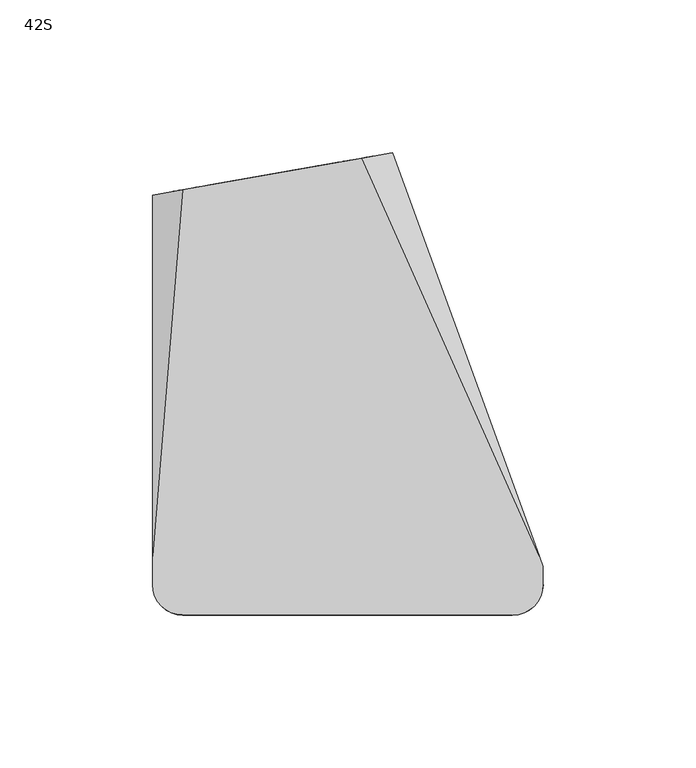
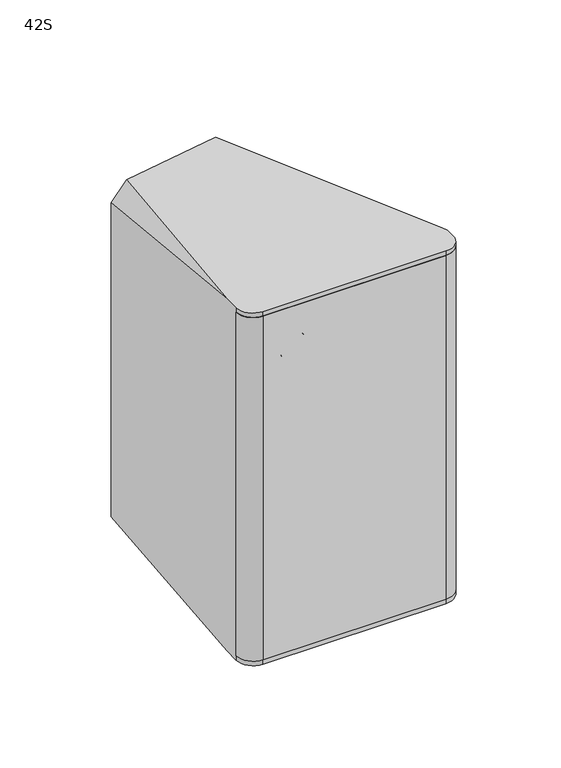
"""IFC4 building model written with IfcOpenShell, lengths in millimetres: proxy geometry, d&b xS-Series 42S Point Source : 42S."""

from ifc_helpers import new_model, si_unit, point, frame, frame_2d, origin, place, context, project, spatial, polyline, circle_curve, ellipse_curve, trimmed, segment, composite_curve, outline, extrude, source, transform, mapped, element, save
from ifc_brep_helpers import plane_surface, cylinder_surface, revolved_surface, advanced_brep


def proxy_42s_0bac77b2(model_context):
    return source(origin(), model_context, "Body", "SolidModel", [
        extrude(outline(composite_curve([segment(trimmed(circle_curve(frame_2d((54.0, -65.9650952)), 8.0), [point((54.0, -73.9650952))], [point((62.0, -65.9650952))], True, "CARTESIAN"), True, "CONTINUOUS"), segment(polyline([(62.0, -65.9650952), (64.0349048, -65.9650952)]), True, "CONTINUOUS"), segment(trimmed(circle_curve(frame_2d((54.0, -65.9650952)), 10.0349048), [point((64.0349048, -65.9650952))], [point((54.0, -76.0))], False, "CARTESIAN"), True, "CONTINUOUS"), segment(polyline([(54.0, -76.0), (-54.0, -76.0)]), True, "CONTINUOUS"), segment(trimmed(circle_curve(frame_2d((-54.0, -66.0)), 10.0), [point((-54.0, -76.0))], [point((-64.0, -66.0))], False, "CARTESIAN"), True, "CONTINUOUS"), segment(polyline([(-64.0, -66.0), (-62.0435242, -66.0)]), True, "CONTINUOUS"), segment(trimmed(circle_curve(frame_2d((-54.078429, -66.0)), 7.9650952), [point((-62.0435242, -66.0))], [point((-54.078429, -73.9650952))], True, "CARTESIAN"), True, "CONTINUOUS"), segment(polyline([(-54.078429, -73.9650952), (54.0, -73.9650952)]), True, "CONTINUOUS")], self_intersect=False)), frame((0.0, 0.0, -107.0), z_axis=(0.0, 0.0, 1.0), x_axis=(1.0, 0.0, 0.0)), (0.0, 0.0, 1.0), 214.0),
        extrude(outline(polyline([(-9.0, -76.0), (-25.3333333, -76.0), (-25.3333333, -71.0), (-9.0, -71.0), (-9.0, -76.0)])), frame((0.0, 0.0, 73.6666667), z_axis=(0.0, 0.0, 1.0), x_axis=(1.0, 0.0, 0.0)), (0.0, 0.0, 1.0), 16.3333333),
        extrude(outline(polyline([(-9.0, -76.0), (-25.3333333, -76.0), (-25.3333333, -71.0), (-9.0, -71.0), (-9.0, -76.0)])), frame((0.0, 0.0, 55.0), z_axis=(0.0, 0.0, 1.0), x_axis=(1.0, 0.0, 0.0)), (0.0, 0.0, 1.0), 16.3333333),
        extrude(outline(polyline([(-27.6666667, -76.0), (-44.0, -76.0), (-44.0, -71.0), (-27.6666667, -71.0), (-27.6666667, -76.0)])), frame((0.0, 0.0, 55.0), z_axis=(0.0, 0.0, 1.0), x_axis=(1.0, 0.0, 0.0)), (0.0, 0.0, 1.0), 16.3333333),
        extrude(outline(composite_curve([segment(trimmed(circle_curve(frame_2d((81.8333333, -35.8333333)), 8.1666667), [point((73.6666667, -35.8333333))], [point((90.0, -35.8333333))], False, "CARTESIAN"), True, "CONTINUOUS"), segment(trimmed(circle_curve(frame_2d((81.8333333, -35.8333333)), 8.1666667), [point((90.0, -35.8333333))], [point((73.6666667, -35.8333333))], False, "CARTESIAN"), True, "CONTINUOUS")], self_intersect=False)), frame((0.0, -76.0, 0.0), z_axis=(0.0, 1.0, 0.0), x_axis=(0.0, 0.0, 1.0)), (0.0, 0.0, 1.0), 5.0),
        advanced_brep(
        [(-64.0, -66.0, 107.0), (-64.0, -66.0, -107.0), (-62.0435242, -66.0, -107.0), (-62.0435242, -66.0, 107.0), (-54.078429, -73.9650952, -107.0), (-54.078429, -73.9650952, 107.0), (54.0, -73.9650952, -107.0), (54.0, -73.9650952, 107.0), (62.0, -65.9650952, -107.0), (62.0, -65.9650952, 107.0), (64.0, -65.9650952, -107.0), (64.0, -65.9650952, 107.0), (64.0, -65.9650952, -109.8273531), (64.0, -60.0349048, -109.7253263), (64.0, -60.0349048, 109.7253263), (64.0, -65.9650952, 109.8273531), (-64.0, -66.0, 109.8279536), (-64.0, -56.6972655, 109.6679034), (-64.0, 61.6262346, 97.8946622), (-64.0, 61.6262346, -97.8946622), (-64.0, -56.6972655, -109.6679034), (-64.0, -66.0, -109.8279536), (14.6819894, 75.4999923, -96.5142171), (14.6819894, 75.4999923, 96.5142171), (62.7855103, -56.6972655, 109.6679034), (62.7855103, -56.6972655, -109.6679034), (-54.1190905, 63.3685056, 107.602215), (-54.1190905, 63.3685056, -107.602215), (4.5961827, 73.7215924, -107.4240938), (4.5961827, 73.7215924, 107.4240938), (-54.078429, -75.921571, 109.9986507), (54.0, -75.9650952, 109.9993995), (54.0, -75.9650952, -109.9993995), (-54.078429, -75.9650952, -109.9993995), (54.0, -75.9650952, 107.0), (-54.078429, -75.9650952, 107.0), (-45.1738745, 64.9457885, 95.447753), (-57.4839714, 62.7751863, 82.947753), (-57.4839714, 62.7751863, 67.052247), (-45.1738745, 64.9457885, 54.552247), (-4.2201563, 72.167034, 54.552247), (8.0899406, 74.3376362, 67.052247), (8.0899406, 74.3376362, 82.947753), (-4.2201563, 72.167034, 95.447753), (-45.1738745, 64.9457885, -52.1), (-57.4839714, 62.7751863, -64.6), (-57.4839714, 62.7751863, -82.4), (-45.1738745, 64.9457885, -94.9), (-4.2201563, 72.167034, -94.9), (8.0899406, 74.3376362, -82.4), (8.0899406, 74.3376362, -64.6), (-4.2201563, 72.167034, -52.1), (-44.3056336, 60.0217497, 95.447753), (-3.3519154, 67.2429952, 95.447753), (8.9581815, 69.4135974, 82.947753), (8.9581815, 69.4135974, 67.052247), (-3.3519154, 67.2429952, 54.552247), (-44.3056336, 60.0217497, 54.552247), (-56.6157306, 57.8511475, 67.052247), (-56.6157306, 57.8511475, 82.947753), (-44.3056336, 60.0217497, -52.1), (-3.3519154, 67.2429952, -52.1), (8.9581815, 69.4135974, -64.6), (8.9581815, 69.4135974, -82.4), (-3.3519154, 67.2429952, -94.9), (-44.3056336, 60.0217497, -94.9), (-56.6157306, 57.8511475, -82.4), (-56.6157306, 57.8511475, -64.6), (-54.078429, -75.921571, -107.0), (54.0, -75.9650952, -107.0)],
        [
            (0, 1),
            (1, 2),
            (2, 3),
            (3, 0),
            (2, 4, circle_curve(frame((-54.078429, -66.0, -107.0), z_axis=(0.0, 0.0, 1.0), x_axis=(-1.0, 0.0, 0.0)), 7.9650952)),
            (4, 5),
            (5, 3, circle_curve(frame((-54.078429, -66.0, 107.0), z_axis=(0.0, 0.0, -1.0), x_axis=(-1.0, 0.0, 0.0)), 7.9650952)),
            (4, 6),
            (6, 7),
            (7, 5),
            (6, 8, circle_curve(frame((54.0, -65.9650952, -107.0), z_axis=(0.0, 0.0, 1.0), x_axis=(-1.0, 0.0, 0.0)), 8.0)),
            (8, 9),
            (9, 7, circle_curve(frame((54.0, -65.9650952, 107.0), z_axis=(0.0, 0.0, -1.0), x_axis=(-1.0, 0.0, 0.0)), 8.0)),
            (8, 10),
            (10, 11),
            (11, 9),
            (10, 12),
            (12, 13),
            (13, 14),
            (14, 15),
            (15, 11),
            (0, 16),
            (16, 17),
            (17, 18),
            (18, 19),
            (19, 20),
            (20, 21),
            (21, 1),
            (22, 23),
            (23, 24),
            (24, 14),
            (13, 25),
            (25, 22),
            (26, 18),
            (17, 26),
            (19, 27),
            (27, 20),
            (28, 22),
            (25, 28),
            (23, 29),
            (29, 24),
            (29, 26),
            (16, 30, ellipse_curve(frame((-54.078429, -66.0, 109.8279536), z_axis=(0.0, 0.017202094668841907, 0.9998520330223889), x_axis=(0.0, -0.999852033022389, 0.017202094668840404)), 9.9230392, 9.921571)),
            (30, 31),
            (31, 15, ellipse_curve(frame((54.0, -65.9650952, 109.8273531), z_axis=(0.0, 0.017202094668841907, 0.9998520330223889), x_axis=(0.0, -0.999852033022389, 0.017202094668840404)), 10.0014799, 10.0)),
            (12, 32, ellipse_curve(frame((54.0, -65.9650952, -109.8273531), z_axis=(0.0, 0.0172020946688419, -0.9998520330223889), x_axis=(0.0, 0.9998520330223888, 0.01720209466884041)), 10.0014799, 10.0)),
            (32, 33),
            (33, 21, ellipse_curve(frame((-54.078429, -66.0, -109.8279536), z_axis=(0.0, 0.0172020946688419, -0.9998520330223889), x_axis=(0.0, 0.9998520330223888, 0.01720209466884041)), 9.9230392, 9.921571)),
            (27, 28),
            (11, 34, circle_curve(frame((54.0, -65.9650952, 107.0), z_axis=(0.0, 0.0, -1.0), x_axis=(-1.0, 0.0, 0.0)), 10.0)),
            (34, 35),
            (35, 0, circle_curve(frame((-54.078429, -66.0, 107.0), z_axis=(0.0, 0.0, -1.0), x_axis=(-1.0, 0.0, 0.0)), 9.921571)),
            (35, 30),
            (34, 31),
            (36, 37, circle_curve(frame((-45.1738745, 64.9457885, 82.947753), z_axis=(0.17364817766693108, -0.9848077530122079, 0.0), x_axis=(0.9848077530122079, 0.17364817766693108, 0.0)), 12.5)),
            (37, 38),
            (38, 39, circle_curve(frame((-45.1738745, 64.9457885, 67.052247), z_axis=(0.17364817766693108, -0.9848077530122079, 0.0), x_axis=(0.9848077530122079, 0.17364817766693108, 0.0)), 12.5)),
            (39, 40),
            (40, 41, circle_curve(frame((-4.2201563, 72.167034, 67.052247), z_axis=(0.17364817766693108, -0.9848077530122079, 0.0), x_axis=(0.9848077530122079, 0.17364817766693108, 0.0)), 12.5)),
            (41, 42),
            (42, 43, circle_curve(frame((-4.2201563, 72.167034, 82.947753), z_axis=(0.17364817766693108, -0.9848077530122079, 0.0), x_axis=(0.9848077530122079, 0.17364817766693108, 0.0)), 12.5)),
            (43, 36),
            (44, 45, circle_curve(frame((-45.1738745, 64.9457885, -64.6), z_axis=(0.17364817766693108, -0.9848077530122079, 0.0), x_axis=(0.9848077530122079, 0.17364817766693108, 0.0)), 12.5)),
            (45, 46),
            (46, 47, circle_curve(frame((-45.1738745, 64.9457885, -82.4), z_axis=(0.17364817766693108, -0.9848077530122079, 0.0), x_axis=(0.9848077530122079, 0.17364817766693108, 0.0)), 12.5)),
            (47, 48),
            (48, 49, circle_curve(frame((-4.2201563, 72.167034, -82.4), z_axis=(0.17364817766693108, -0.9848077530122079, 0.0), x_axis=(0.9848077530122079, 0.17364817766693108, 0.0)), 12.5)),
            (49, 50),
            (50, 51, circle_curve(frame((-4.2201563, 72.167034, -64.6), z_axis=(0.17364817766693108, -0.9848077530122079, 0.0), x_axis=(0.9848077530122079, 0.17364817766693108, 0.0)), 12.5)),
            (51, 44),
            (52, 53),
            (53, 54, circle_curve(frame((-3.3519154, 67.2429952, 82.947753), z_axis=(-0.17364817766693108, 0.9848077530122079, 0.0), x_axis=(0.9848077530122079, 0.17364817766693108, 0.0)), 12.5)),
            (54, 55),
            (55, 56, circle_curve(frame((-3.3519154, 67.2429952, 67.052247), z_axis=(-0.17364817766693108, 0.9848077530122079, 0.0), x_axis=(0.9848077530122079, 0.17364817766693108, 0.0)), 12.5)),
            (56, 57),
            (57, 58, circle_curve(frame((-44.3056336, 60.0217497, 67.052247), z_axis=(-0.17364817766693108, 0.9848077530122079, 0.0), x_axis=(0.9848077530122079, 0.17364817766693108, 0.0)), 12.5)),
            (58, 59),
            (59, 52, circle_curve(frame((-44.3056336, 60.0217497, 82.947753), z_axis=(-0.17364817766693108, 0.9848077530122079, 0.0), x_axis=(0.9848077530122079, 0.17364817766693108, 0.0)), 12.5)),
            (60, 61),
            (61, 62, circle_curve(frame((-3.3519154, 67.2429952, -64.6), z_axis=(-0.17364817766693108, 0.9848077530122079, 0.0), x_axis=(0.9848077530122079, 0.17364817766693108, 0.0)), 12.5)),
            (62, 63),
            (63, 64, circle_curve(frame((-3.3519154, 67.2429952, -82.4), z_axis=(-0.17364817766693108, 0.9848077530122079, 0.0), x_axis=(0.9848077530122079, 0.17364817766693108, 0.0)), 12.5)),
            (64, 65),
            (65, 66, circle_curve(frame((-44.3056336, 60.0217497, -82.4), z_axis=(-0.17364817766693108, 0.9848077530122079, 0.0), x_axis=(0.9848077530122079, 0.17364817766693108, 0.0)), 12.5)),
            (66, 67),
            (67, 60, circle_curve(frame((-44.3056336, 60.0217497, -64.6), z_axis=(-0.17364817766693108, 0.9848077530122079, 0.0), x_axis=(0.9848077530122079, 0.17364817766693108, 0.0)), 12.5)),
            (1, 68, circle_curve(frame((-54.078429, -66.0, -107.0), z_axis=(0.0, 0.0, 1.0), x_axis=(-1.0, 0.0, 0.0)), 9.921571)),
            (68, 69),
            (69, 10, circle_curve(frame((54.0, -65.9650952, -107.0), z_axis=(0.0, 0.0, 1.0), x_axis=(-1.0, 0.0, 0.0)), 10.0)),
            (33, 68),
            (32, 69),
            (59, 37),
            (36, 52),
            (58, 38),
            (57, 39),
            (56, 40),
            (55, 41),
            (54, 42),
            (53, 43),
            (67, 45),
            (44, 60),
            (66, 46),
            (65, 47),
            (64, 48),
            (63, 49),
            (62, 50),
            (61, 51),
        ],
        [
            plane_surface(frame((-64.0, -66.0, 107.0), z_axis=(0.0, -1.0, 0.0), x_axis=(0.0, 0.0, -1.0))),
            cylinder_surface(frame((-54.078429, -66.0, -107.0), z_axis=(0.0, 0.0, 1.0), x_axis=(-1.0, 0.0, 0.0)), 7.9650952),
            plane_surface(frame((-54.078429, -73.9650952, 107.0), z_axis=(0.0, -1.0, 0.0), x_axis=(0.0, 0.0, -1.0))),
            cylinder_surface(frame((54.0, -65.9650952, -107.0), z_axis=(0.0, 0.0, 1.0), x_axis=(-1.0, 0.0, 0.0)), 8.0),
            plane_surface(frame((62.0, -65.9650952, 107.0), z_axis=(0.0, -1.0, 0.0), x_axis=(0.0, 0.0, -1.0))),
            plane_surface(frame((64.0, -65.9650952, 107.0), z_axis=(1.0, 0.0, 0.0), x_axis=(0.0, 0.0, -1.0))),
            plane_surface(frame((-64.0, -60.0349048, 107.0), z_axis=(-1.0, 0.0, 0.0), x_axis=(0.0, 0.0, -1.0))),
            plane_surface(frame((14.5000481, 76.0, 0.0), z_axis=(0.9397208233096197, 0.3419426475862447, 0.0), x_axis=(0.0, 0.0, 1.0))),
            plane_surface(frame((-57.232233, 76.0, 103.232233), z_axis=(-0.7053631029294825, 0.07018394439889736, 0.7053631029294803), x_axis=(-0.7071067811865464, 0.0, -0.7071067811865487))),
            plane_surface(frame((-57.232233, 76.0, -103.232233), z_axis=(-0.7053631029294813, 0.07018394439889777, -0.7053631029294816), x_axis=(0.7071067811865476, 0.0, -0.7071067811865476))),
            plane_surface(frame((7.7322812, 76.0, -103.232233), z_axis=(0.6719558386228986, 0.31136907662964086, -0.671955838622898), x_axis=(0.7071067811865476, 0.0, 0.7071067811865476))),
            plane_surface(frame((7.7322812, 76.0, 103.232233), z_axis=(0.6719558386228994, 0.31136907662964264, 0.6719558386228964), x_axis=(-0.7071067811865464, 0.0, 0.7071067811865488))),
            plane_surface(frame((100.0, -97.3033587, 110.3665166), z_axis=(0.0, 0.017202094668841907, 0.9998520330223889), x_axis=(-1.0, 0.0, 0.0))),
            plane_surface(frame((100.0, 83.9889493, -107.2474477), z_axis=(0.0, 0.0172020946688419, -0.9998520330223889), x_axis=(-1.0, 0.0, 0.0))),
            plane_surface(frame((-64.0, -66.0, 107.0), z_axis=(0.0, 0.0, -1.0), x_axis=(0.0, 1.0, 0.0))),
            cylinder_surface(frame((-54.078429, -66.0, 107.0), z_axis=(0.0, 0.0, 1.0), x_axis=(-1.0, 0.0, 0.0)), 9.921571),
            plane_surface(frame((-54.078429, -75.9650952, 112.6426388), z_axis=(0.0, -1.0, 0.0), x_axis=(0.0, 0.0, -1.0))),
            cylinder_surface(frame((54.0, -65.9650952, 107.0), z_axis=(0.0, 0.0, 1.0), x_axis=(-1.0, 0.0, 0.0)), 10.0),
            plane_surface(frame((-81.2585403, 58.5830883, 250.0), z_axis=(-0.17364817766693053, 0.984807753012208, 0.0), x_axis=(0.0, 0.0, -1.0))),
            plane_surface(frame((-31.9955367, 62.192352, 82.947753), z_axis=(-0.17364817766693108, 0.9848077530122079, 0.0), x_axis=(0.0, 0.0, 1.0))),
            plane_surface(frame((-64.0, -66.0, -107.0), z_axis=(0.0, 0.0, 1.0), x_axis=(0.0, -1.0, 0.0))),
            cylinder_surface(frame((-54.078429, -66.0, -113.0), z_axis=(0.0, 0.0, 1.0), x_axis=(-1.0, 0.0, 0.0)), 9.921571),
            plane_surface(frame((-54.078429, -75.9650952, -107.0), z_axis=(0.0, -1.0, 0.0), x_axis=(0.0, 0.0, -1.0))),
            cylinder_surface(frame((54.0, -65.9650952, -113.0), z_axis=(0.0, 0.0, 1.0), x_axis=(-1.0, 0.0, 0.0)), 10.0),
            revolved_surface(polyline([(-31.995536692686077, 62.19235191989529, 82.947753), (-32.86377759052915, 67.11639073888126, 82.947753)]), (-45.1738745, 64.9457885, 82.947753), (0.17364817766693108, -0.9848077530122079, 0.0)),
            plane_surface(frame((-56.6157306, 57.8511475, 82.947753), z_axis=(0.9848077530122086, 0.17364817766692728, 0.0), x_axis=(-0.17364817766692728, 0.9848077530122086, 0.0))),
            revolved_surface(polyline([(-31.995536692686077, 62.19235191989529, 67.052247), (-32.86377759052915, 67.11639073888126, 67.052247)]), (-45.1738745, 64.9457885, 67.052247), (0.17364817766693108, -0.9848077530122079, 0.0)),
            plane_surface(frame((-44.3056336, 60.0217497, 54.552247), z_axis=(0.0, 0.0, 1.0), x_axis=(-0.17364817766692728, 0.9848077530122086, 0.0))),
            revolved_surface(polyline([(8.958181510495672, 69.41359740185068, 67.052247), (8.089940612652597, 74.33763622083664, 67.052247)]), (-4.2201563, 72.167034, 67.052247), (0.17364817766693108, -0.9848077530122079, 0.0)),
            plane_surface(frame((8.9581815, 69.4135974, 67.052247), z_axis=(-0.9848077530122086, -0.17364817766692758, 0.0), x_axis=(-0.17364817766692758, 0.9848077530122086, 0.0))),
            revolved_surface(polyline([(8.958181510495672, 69.41359740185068, 82.947753), (8.089940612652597, 74.33763622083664, 82.947753)]), (-4.2201563, 72.167034, 82.947753), (0.17364817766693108, -0.9848077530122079, 0.0)),
            plane_surface(frame((-3.3519154, 67.2429952, 95.447753), z_axis=(0.0, 0.0, -1.0), x_axis=(-0.17364817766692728, 0.9848077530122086, 0.0))),
            revolved_surface(polyline([(-31.995536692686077, 62.19235191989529, -64.6), (-32.86377759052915, 67.11639073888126, -64.6)]), (-45.1738745, 64.9457885, -64.6), (0.17364817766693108, -0.9848077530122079, 0.0)),
            plane_surface(frame((-56.6157306, 57.8511475, -64.6), z_axis=(0.9848077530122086, 0.17364817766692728, 0.0), x_axis=(-0.17364817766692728, 0.9848077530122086, 0.0))),
            revolved_surface(polyline([(-31.995536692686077, 62.19235191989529, -82.4), (-32.86377759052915, 67.11639073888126, -82.4)]), (-45.1738745, 64.9457885, -82.4), (0.17364817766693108, -0.9848077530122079, 0.0)),
            plane_surface(frame((-44.3056336, 60.0217497, -94.9), z_axis=(0.0, 0.0, 1.0), x_axis=(-0.17364817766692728, 0.9848077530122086, 0.0))),
            revolved_surface(polyline([(8.958181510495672, 69.41359740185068, -82.4), (8.089940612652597, 74.33763622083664, -82.4)]), (-4.2201563, 72.167034, -82.4), (0.17364817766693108, -0.9848077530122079, 0.0)),
            plane_surface(frame((8.9581815, 69.4135974, -82.4), z_axis=(-0.9848077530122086, -0.17364817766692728, 0.0), x_axis=(-0.17364817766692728, 0.9848077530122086, 0.0))),
            revolved_surface(polyline([(8.958181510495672, 69.41359740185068, -64.6), (8.089940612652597, 74.33763622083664, -64.6)]), (-4.2201563, 72.167034, -64.6), (0.17364817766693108, -0.9848077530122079, 0.0)),
            plane_surface(frame((-3.3519154, 67.2429952, -52.1), z_axis=(0.0, 0.0, -1.0), x_axis=(-0.17364817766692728, 0.9848077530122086, 0.0))),
        ],
        [
            (0, [[1, 2, 3, 4]]),
            (1, [[-3, 5, 6, 7]]),
            (2, [[-6, 8, 9, 10]]),
            (3, [[-9, 11, 12, 13]]),
            (4, [[-12, 14, 15, 16]]),
            (5, [[-15, 17, 18, 19, 20, 21]]),
            (6, [[-1, 22, 23, 24, 25, 26, 27, 28]]),
            (7, [[29, 30, 31, -19, 32, 33]]),
            (8, [[34, -24, 35]]),
            (9, [[-26, 36, 37]]),
            (10, [[38, -33, 39]]),
            (11, [[-30, 40, 41]]),
            (12, [[-20, -31, -41, 42, -35, -23, 43, 44, 45]]),
            (13, [[-18, 46, 47, 48, -27, -37, 49, -39, -32]]),
            (14, [[50, 51, 52, -4, -7, -10, -13, -16]]),
            (15, [[-52, 53, -43, -22]]),
            (16, [[-51, 54, -44, -53]]),
            (17, [[-50, -21, -45, -54]]),
            (18, [[-25, -34, -42, -40, -29, -38, -49, -36], [55, 56, 57, 58, 59, 60, 61, 62], [63, 64, 65, 66, 67, 68, 69, 70]]),
            (19, [[71, 72, 73, 74, 75, 76, 77, 78]]),
            (19, [[79, 80, 81, 82, 83, 84, 85, 86]]),
            (20, [[87, 88, 89, -14, -11, -8, -5, -2]]),
            (21, [[-87, -28, -48, 90]]),
            (22, [[-88, -90, -47, 91]]),
            (23, [[-89, -91, -46, -17]]),
            (24, [[-78, 92, -55, 93]]),
            (25, [[-77, 94, -56, -92]]),
            (26, [[-76, 95, -57, -94]]),
            (27, [[-75, 96, -58, -95]]),
            (28, [[-74, 97, -59, -96]]),
            (29, [[-73, 98, -60, -97]]),
            (30, [[-72, 99, -61, -98]]),
            (31, [[-71, -93, -62, -99]]),
            (32, [[-86, 100, -63, 101]]),
            (33, [[-85, 102, -64, -100]]),
            (34, [[-84, 103, -65, -102]]),
            (35, [[-83, 104, -66, -103]]),
            (36, [[-82, 105, -67, -104]]),
            (37, [[-81, 106, -68, -105]]),
            (38, [[-80, 107, -69, -106]]),
            (39, [[-79, -101, -70, -107]]),
        ],
    ),
        extrude(outline(composite_curve([segment(trimmed(circle_curve(frame_2d((0.0, -12.0)), 12.0), [point((0.0, -24.0))], [point((0.0, 0.0))], False, "CARTESIAN"), True, "CONTINUOUS"), segment(trimmed(circle_curve(frame_2d((0.0, -12.0)), 12.0), [point((0.0, 0.0))], [point((0.0, -24.0))], False, "CARTESIAN"), True, "CONTINUOUS")], self_intersect=False)), frame((-50.3782035, 58.9509918, -74.8471384), z_axis=(-0.17364817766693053, 0.984807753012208, 0.0), x_axis=(0.0, 0.0, -1.0)), (0.0, 0.0, 1.0), 5.0),
        extrude(outline(composite_curve([segment(trimmed(circle_curve(frame_2d((0.0, -42.0)), 12.0), [point((0.0, -54.0))], [point((0.0, -30.0))], False, "CARTESIAN"), True, "CONTINUOUS"), segment(trimmed(circle_curve(frame_2d((0.0, -42.0)), 12.0), [point((0.0, -30.0))], [point((0.0, -54.0))], False, "CARTESIAN"), True, "CONTINUOUS")], self_intersect=False)), frame((-50.3782035, 58.9509918, -74.8471384), z_axis=(-0.17364817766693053, 0.984807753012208, 0.0), x_axis=(0.0, 0.0, -1.0)), (0.0, 0.0, 1.0), 5.0),
    ])


if __name__ == "__main__":
    model = new_model("IFC4")
    model_context = context("Model", 3, world=origin())
    ifc_project = project(units=[si_unit("LENGTHUNIT", "METRE", prefix="MILLI")], contexts=[model_context])
    site = spatial("IfcSite", under=ifc_project)
    building = spatial("IfcBuilding", under=site)
    placement = place(None, origin())
    proxy_42s_shape = proxy_42s_0bac77b2(model_context)
    element("IfcBuildingElementProxy", 1, Name="d&b xS-Series 42S Point Source : 42S", ObjectType="d&b xS-Series 42S Point Source : 42S", at=placement, inside=building, context=model_context, shape_type="MappedRepresentation", body=[
        mapped(proxy_42s_shape, transform((0.0, 0.0, 0.0), x_axis=(1.0, 0.0, 0.0), y_axis=(0.0, 1.0, 0.0), z_axis=(0.0, 0.0, 1.0))),
    ])
    save(model, "model.ifc")
